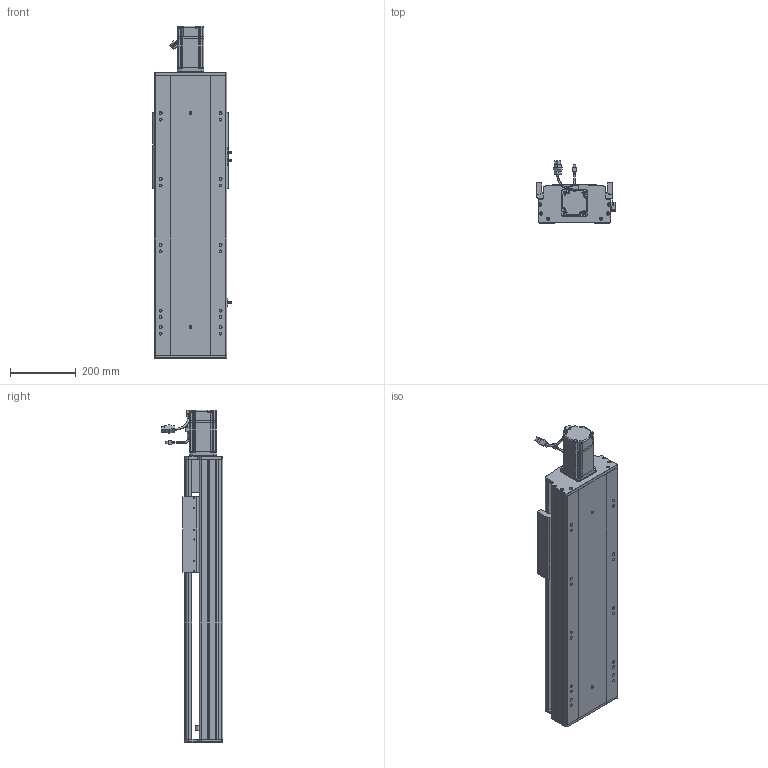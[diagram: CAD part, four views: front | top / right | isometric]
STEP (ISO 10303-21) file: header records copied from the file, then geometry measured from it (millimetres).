
FILE_DESCRIPTION (( 'STEP AP203' ), '1' );
FILE_NAME ('RY220-L2525-300-MK.SLDASM_450.step', '2022-07-04T02:57:22', ( '' ), ( '' ), 'SwSTEP 2.0', 'SolidWorks 2016', '' );
FILE_SCHEMA (( 'CONFIG_CONTROL_DESIGN' ));
Length unit declared in the file: millimetre
Products named in the file (12): RY220菁釱MK-300_450; RY220-300-奻裔啣-MK_450; 滅袉蝶18-15; 怢湛750W_ECMA-CX0807ES; RY220-L2525-300-MK.SLDASM_450; RY220ヶ裔啣; RY220綴裔啣; RY220电机支撑座FK20（PCD90M6）; RY220半封闭25-32螺母铝滑块; 滅袉蝶18-12; 覜茼ん672; RY220-俋离672覜茼んえ
Assembly tree (15 placements, depth 2):
  RY220-L2525-300-MK.SLDASM_450
    RY220菁釱MK-300_450
    RY220电机支撑座FK20（PCD90M6）
    怢湛750W_ECMA-CX0807ES
    滅袉蝶18-12  x2
    RY220ヶ裔啣
    RY220綴裔啣
    覜茼ん672  x3
    RY220半封闭25-32螺母铝滑块
    RY220-300-奻裔啣-MK_450
    RY220-俋离672覜茼んえ
    滅袉蝶18-15  x2
Bounding box: 238.7 x 187.27 x 1008.3 mm (x, y, z)
Volume: 8809368.4 mm3; surface area: 2272838.4 mm2
Topology: 16 solids, 16 shells, 2114 faces, 5858 edges, 3718 vertices
Faces by surface type: cylinder 932, plane 907, cone 213, bspline 36, sphere 16, torus 10
Entity records: 69490 total; most frequent: CARTESIAN_POINT 19883, ORIENTED_EDGE 10328, DIRECTION 9675, EDGE_CURVE 5164, AXIS2_PLACEMENT_3D 3375, VERTEX_POINT 3374, LINE 2925, VECTOR 2925
